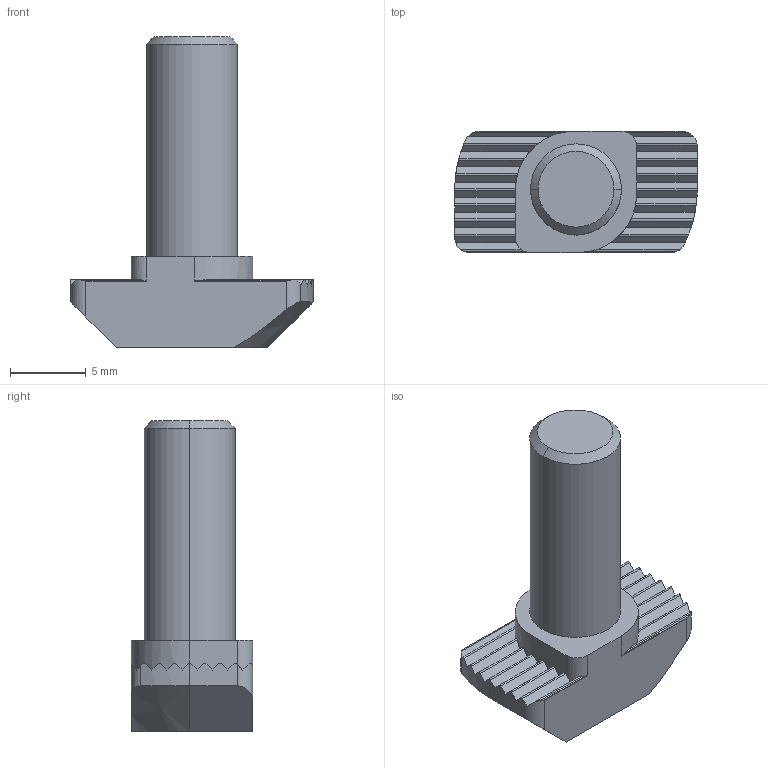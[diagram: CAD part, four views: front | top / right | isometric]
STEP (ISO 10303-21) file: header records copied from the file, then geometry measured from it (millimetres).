
FILE_DESCRIPTION (( 'STEP AP214' ), '1' );
FILE_NAME ('096hk0815m0616.STEP', '2013-01-15T12:58:46', ( '' ), ( '' ), 'SwSTEP 2.0', 'SolidWorks 2012', '' );
FILE_SCHEMA (( 'AUTOMOTIVE_DESIGN' ));
Length unit declared in the file: millimetre
Products named in the file (1): 096hk0815m0616
Bounding box: 16 x 8 x 20.5 mm (x, y, z)
Volume: 967.4 mm3; surface area: 738.5 mm2
Topology: 1 solids, 1 shells, 81 faces, 230 edges, 152 vertices
Faces by surface type: plane 45, cylinder 32, cone 4
Entity records: 2929 total; most frequent: CARTESIAN_POINT 953, ORIENTED_EDGE 460, DIRECTION 339, EDGE_CURVE 230, VERTEX_POINT 152, LINE 119, VECTOR 119, AXIS2_PLACEMENT_3D 110
